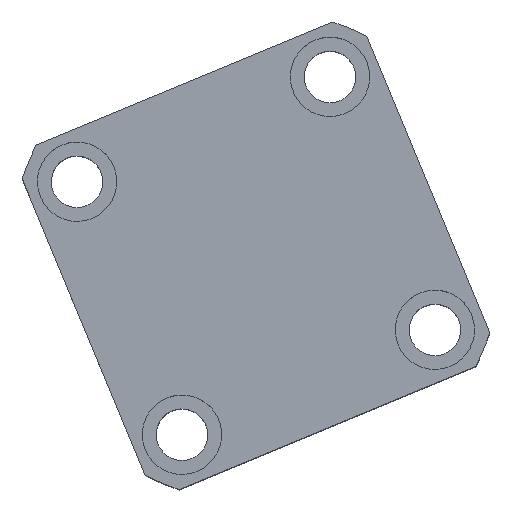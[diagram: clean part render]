
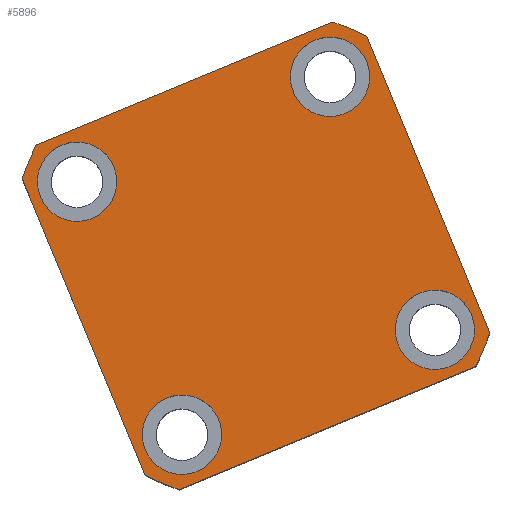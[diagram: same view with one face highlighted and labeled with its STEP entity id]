
A CAD part, top view. The second image highlights one B-rep face of the part: STEP entity #5896.
In plain terms, the highlighted planar face has unit normal (0, 0, 1) as drawn and (0, 0, -1) by its records, which use the part's own axes.
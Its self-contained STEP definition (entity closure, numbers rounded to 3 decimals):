
#164 = CARTESIAN_POINT ( 'NONE',  ( 0., 0., 0. ) ) ;
#281 = EDGE_CURVE ( 'NONE', #8787, #11232, #3247, .T. ) ;
#913 = EDGE_CURVE ( 'NONE', #7828, #20504, #8634, .T. ) ;
#979 = EDGE_CURVE ( 'NONE', #12436, #14974, #17290, .T. ) ;
#1080 = VERTEX_POINT ( 'NONE', #22176 ) ;
#1113 = ORIENTED_EDGE ( 'NONE', *, *, #11768, .F. ) ;
#1496 = CARTESIAN_POINT ( 'NONE',  ( -34.5, 34.5, 0. ) ) ;
#1887 = DIRECTION ( 'NONE',  ( 1., 0., 0. ) ) ;
#1972 = DIRECTION ( 'NONE',  ( 0., 0., -1. ) ) ;
#1975 = DIRECTION ( 'NONE',  ( 0., 0., -1. ) ) ;
#2050 = LINE ( 'NONE', #21432, #2599 ) ;
#2076 = CARTESIAN_POINT ( 'NONE',  ( -24.5, -34.5, 0. ) ) ;
#2089 = DIRECTION ( 'NONE',  ( 1., 0., 0. ) ) ;
#2254 = CARTESIAN_POINT ( 'NONE',  ( -44.5, 34.5, 0. ) ) ;
#2298 = CARTESIAN_POINT ( 'NONE',  ( 40.435, -47., 0. ) ) ;
#2440 = DIRECTION ( 'NONE',  ( 0., 0., -1. ) ) ;
#2599 = VECTOR ( 'NONE', #11083, 1000. ) ;
#3238 = DIRECTION ( 'NONE',  ( -1., 0., 0. ) ) ;
#3247 = CIRCLE ( 'NONE', #4372, 10. ) ;
#3321 = CARTESIAN_POINT ( 'NONE',  ( 34.5, 34.5, 0. ) ) ;
#3603 = CARTESIAN_POINT ( 'NONE',  ( -47., -47., 0. ) ) ;
#3606 = FACE_BOUND ( 'NONE', #22183, .T. ) ;
#3898 = CARTESIAN_POINT ( 'NONE',  ( 47., -40.435, 0. ) ) ;
#4145 = CIRCLE ( 'NONE', #18818, 10. ) ;
#4311 = AXIS2_PLACEMENT_3D ( 'NONE', #15110, #4772, #16847 ) ;
#4372 = AXIS2_PLACEMENT_3D ( 'NONE', #12298, #1975, #14049 ) ;
#4520 = PLANE ( 'NONE',  #20154 ) ;
#4729 = LINE ( 'NONE', #17344, #18505 ) ;
#4772 = DIRECTION ( 'NONE',  ( 0., 0., 1. ) ) ;
#4984 = ORIENTED_EDGE ( 'NONE', *, *, #21762, .F. ) ;
#5057 = DIRECTION ( 'NONE',  ( -1., 0., 0. ) ) ;
#5227 = FACE_BOUND ( 'NONE', #16361, .T. ) ;
#5267 = DIRECTION ( 'NONE',  ( 0., -1., 0. ) ) ;
#5422 = CARTESIAN_POINT ( 'NONE',  ( 0., 0., 0. ) ) ;
#5505 = CARTESIAN_POINT ( 'NONE',  ( 40.435, 47., 0. ) ) ;
#5520 = ORIENTED_EDGE ( 'NONE', *, *, #6552, .F. ) ;
#5578 = CARTESIAN_POINT ( 'NONE',  ( 24.5, -34.5, 0. ) ) ;
#5648 = EDGE_CURVE ( 'NONE', #11232, #8787, #9273, .T. ) ;
#5727 = VERTEX_POINT ( 'NONE', #7094 ) ;
#5862 = AXIS2_PLACEMENT_3D ( 'NONE', #7280, #19380, #9032 ) ;
#5865 = CARTESIAN_POINT ( 'NONE',  ( 0., 0., 0. ) ) ;
#5896 = ADVANCED_FACE ( 'NONE', ( #5227, #21956, #8168, #3606, #21422 ), #4520, .F. ) ;
#6046 = ORIENTED_EDGE ( 'NONE', *, *, #19003, .F. ) ;
#6331 = EDGE_CURVE ( 'NONE', #14078, #13893, #19800, .T. ) ;
#6386 = EDGE_CURVE ( 'NONE', #17636, #1080, #10615, .T. ) ;
#6552 = EDGE_CURVE ( 'NONE', #13893, #18388, #19262, .T. ) ;
#7094 = CARTESIAN_POINT ( 'NONE',  ( 47., 40.435, 0. ) ) ;
#7150 = DIRECTION ( 'NONE',  ( 1., 0., 0. ) ) ;
#7280 = CARTESIAN_POINT ( 'NONE',  ( 34.5, -34.5, 0. ) ) ;
#7582 = DIRECTION ( 'NONE',  ( 1., 0., 0. ) ) ;
#7619 = LINE ( 'NONE', #17350, #8147 ) ;
#7746 = EDGE_CURVE ( 'NONE', #18388, #5727, #7619, .T. ) ;
#7781 = AXIS2_PLACEMENT_3D ( 'NONE', #164, #12209, #1887 ) ;
#7828 = VERTEX_POINT ( 'NONE', #2254 ) ;
#7868 = CARTESIAN_POINT ( 'NONE',  ( 34.5, -34.5, 0. ) ) ;
#7968 = DIRECTION ( 'NONE',  ( 1., 0., 0. ) ) ;
#8039 = AXIS2_PLACEMENT_3D ( 'NONE', #7868, #19945, #9613 ) ;
#8079 = CIRCLE ( 'NONE', #4311, 62. ) ;
#8147 = VECTOR ( 'NONE', #8586, 1000. ) ;
#8168 = FACE_BOUND ( 'NONE', #10281, .T. ) ;
#8550 = AXIS2_PLACEMENT_3D ( 'NONE', #1496, #13570, #3238 ) ;
#8586 = DIRECTION ( 'NONE',  ( 0., 1., 0. ) ) ;
#8634 = CIRCLE ( 'NONE', #8550, 10. ) ;
#8696 = DIRECTION ( 'NONE',  ( 0., 0., -1. ) ) ;
#8787 = VERTEX_POINT ( 'NONE', #2076 ) ;
#9032 = DIRECTION ( 'NONE',  ( -1., 0., 0. ) ) ;
#9273 = CIRCLE ( 'NONE', #12056, 10. ) ;
#9613 = DIRECTION ( 'NONE',  ( -1., 0., 0. ) ) ;
#9673 = CARTESIAN_POINT ( 'NONE',  ( -47., -40.435, 0. ) ) ;
#9966 = EDGE_CURVE ( 'NONE', #14974, #12436, #20006, .T. ) ;
#10281 = EDGE_LOOP ( 'NONE', ( #19107, #21080 ) ) ;
#10312 = ORIENTED_EDGE ( 'NONE', *, *, #281, .F. ) ;
#10615 = CIRCLE ( 'NONE', #5862, 10. ) ;
#11083 = DIRECTION ( 'NONE',  ( -1., 0., 0. ) ) ;
#11178 = AXIS2_PLACEMENT_3D ( 'NONE', #5422, #17503, #7150 ) ;
#11232 = VERTEX_POINT ( 'NONE', #19480 ) ;
#11388 = CARTESIAN_POINT ( 'NONE',  ( -40.435, -47., 0. ) ) ;
#11768 = EDGE_CURVE ( 'NONE', #20270, #14078, #8079, .T. ) ;
#12056 = AXIS2_PLACEMENT_3D ( 'NONE', #19052, #8696, #20768 ) ;
#12209 = DIRECTION ( 'NONE',  ( 0., 0., 1. ) ) ;
#12284 = ORIENTED_EDGE ( 'NONE', *, *, #16671, .F. ) ;
#12296 = CARTESIAN_POINT ( 'NONE',  ( -34.5, 34.5, 0. ) ) ;
#12298 = CARTESIAN_POINT ( 'NONE',  ( -34.5, -34.5, 0. ) ) ;
#12436 = VERTEX_POINT ( 'NONE', #18275 ) ;
#12663 = CIRCLE ( 'NONE', #8039, 10. ) ;
#12763 = CARTESIAN_POINT ( 'NONE',  ( 34.5, 34.5, 0. ) ) ;
#12790 = AXIS2_PLACEMENT_3D ( 'NONE', #5865, #17947, #7582 ) ;
#12870 = VERTEX_POINT ( 'NONE', #14306 ) ;
#12987 = ORIENTED_EDGE ( 'NONE', *, *, #6331, .F. ) ;
#13103 = CIRCLE ( 'NONE', #11178, 62. ) ;
#13438 = EDGE_CURVE ( 'NONE', #1080, #17636, #12663, .T. ) ;
#13570 = DIRECTION ( 'NONE',  ( 0., 0., -1. ) ) ;
#13755 = CARTESIAN_POINT ( 'NONE',  ( -47., 40.435, 0. ) ) ;
#13893 = VERTEX_POINT ( 'NONE', #2298 ) ;
#14046 = DIRECTION ( 'NONE',  ( -1., 0., 0. ) ) ;
#14049 = DIRECTION ( 'NONE',  ( -1., 0., 0. ) ) ;
#14078 = VERTEX_POINT ( 'NONE', #11388 ) ;
#14126 = EDGE_LOOP ( 'NONE', ( #14443, #10312 ) ) ;
#14306 = CARTESIAN_POINT ( 'NONE',  ( -40.435, 47., 0. ) ) ;
#14443 = ORIENTED_EDGE ( 'NONE', *, *, #5648, .F. ) ;
#14496 = CARTESIAN_POINT ( 'NONE',  ( 24.5, 34.5, 0. ) ) ;
#14517 = DIRECTION ( 'NONE',  ( -1., 0., 0. ) ) ;
#14974 = VERTEX_POINT ( 'NONE', #14496 ) ;
#15110 = CARTESIAN_POINT ( 'NONE',  ( 0., 0., 0. ) ) ;
#15213 = VECTOR ( 'NONE', #2089, 1000. ) ;
#15257 = ORIENTED_EDGE ( 'NONE', *, *, #7746, .F. ) ;
#15398 = DIRECTION ( 'NONE',  ( 0., 0., -1. ) ) ;
#15422 = CARTESIAN_POINT ( 'NONE',  ( -24.5, 34.5, 0. ) ) ;
#16361 = EDGE_LOOP ( 'NONE', ( #21068, #20832 ) ) ;
#16434 = AXIS2_PLACEMENT_3D ( 'NONE', #12763, #2440, #14517 ) ;
#16593 = CARTESIAN_POINT ( 'NONE',  ( 0., 0., 0. ) ) ;
#16671 = EDGE_CURVE ( 'NONE', #5727, #21863, #19298, .T. ) ;
#16847 = DIRECTION ( 'NONE',  ( 1., 0., 0. ) ) ;
#17290 = CIRCLE ( 'NONE', #17816, 10. ) ;
#17344 = CARTESIAN_POINT ( 'NONE',  ( -47., 47., 0. ) ) ;
#17350 = CARTESIAN_POINT ( 'NONE',  ( 47., 47., 0. ) ) ;
#17503 = DIRECTION ( 'NONE',  ( 0., 0., 1. ) ) ;
#17636 = VERTEX_POINT ( 'NONE', #5578 ) ;
#17816 = AXIS2_PLACEMENT_3D ( 'NONE', #3321, #15398, #5057 ) ;
#17947 = DIRECTION ( 'NONE',  ( 0., 0., 1. ) ) ;
#18275 = CARTESIAN_POINT ( 'NONE',  ( 44.5, 34.5, 0. ) ) ;
#18322 = DIRECTION ( 'NONE',  ( 0., 0., 1. ) ) ;
#18388 = VERTEX_POINT ( 'NONE', #3898 ) ;
#18505 = VECTOR ( 'NONE', #5267, 1000. ) ;
#18818 = AXIS2_PLACEMENT_3D ( 'NONE', #12296, #1972, #14046 ) ;
#19003 = EDGE_CURVE ( 'NONE', #20504, #7828, #4145, .T. ) ;
#19052 = CARTESIAN_POINT ( 'NONE',  ( -34.5, -34.5, 0. ) ) ;
#19107 = ORIENTED_EDGE ( 'NONE', *, *, #6386, .F. ) ;
#19262 = CIRCLE ( 'NONE', #12790, 62. ) ;
#19298 = CIRCLE ( 'NONE', #7781, 62. ) ;
#19327 = VERTEX_POINT ( 'NONE', #13755 ) ;
#19380 = DIRECTION ( 'NONE',  ( 0., 0., -1. ) ) ;
#19480 = CARTESIAN_POINT ( 'NONE',  ( -44.5, -34.5, 0. ) ) ;
#19800 = LINE ( 'NONE', #3603, #15213 ) ;
#19877 = ORIENTED_EDGE ( 'NONE', *, *, #21064, .F. ) ;
#19945 = DIRECTION ( 'NONE',  ( 0., 0., -1. ) ) ;
#20006 = CIRCLE ( 'NONE', #16434, 10. ) ;
#20052 = ORIENTED_EDGE ( 'NONE', *, *, #22400, .F. ) ;
#20154 = AXIS2_PLACEMENT_3D ( 'NONE', #16593, #18322, #7968 ) ;
#20270 = VERTEX_POINT ( 'NONE', #9673 ) ;
#20504 = VERTEX_POINT ( 'NONE', #15422 ) ;
#20768 = DIRECTION ( 'NONE',  ( -1., 0., 0. ) ) ;
#20832 = ORIENTED_EDGE ( 'NONE', *, *, #979, .F. ) ;
#21064 = EDGE_CURVE ( 'NONE', #21863, #12870, #2050, .T. ) ;
#21068 = ORIENTED_EDGE ( 'NONE', *, *, #9966, .F. ) ;
#21080 = ORIENTED_EDGE ( 'NONE', *, *, #13438, .F. ) ;
#21419 = ORIENTED_EDGE ( 'NONE', *, *, #913, .F. ) ;
#21422 = FACE_OUTER_BOUND ( 'NONE', #21720, .T. ) ;
#21432 = CARTESIAN_POINT ( 'NONE',  ( -47., 47., 0. ) ) ;
#21720 = EDGE_LOOP ( 'NONE', ( #12284, #15257, #5520, #12987, #1113, #20052, #4984, #19877 ) ) ;
#21762 = EDGE_CURVE ( 'NONE', #12870, #19327, #13103, .T. ) ;
#21863 = VERTEX_POINT ( 'NONE', #5505 ) ;
#21956 = FACE_BOUND ( 'NONE', #14126, .T. ) ;
#22176 = CARTESIAN_POINT ( 'NONE',  ( 44.5, -34.5, 0. ) ) ;
#22183 = EDGE_LOOP ( 'NONE', ( #21419, #6046 ) ) ;
#22400 = EDGE_CURVE ( 'NONE', #19327, #20270, #4729, .T. ) ;
